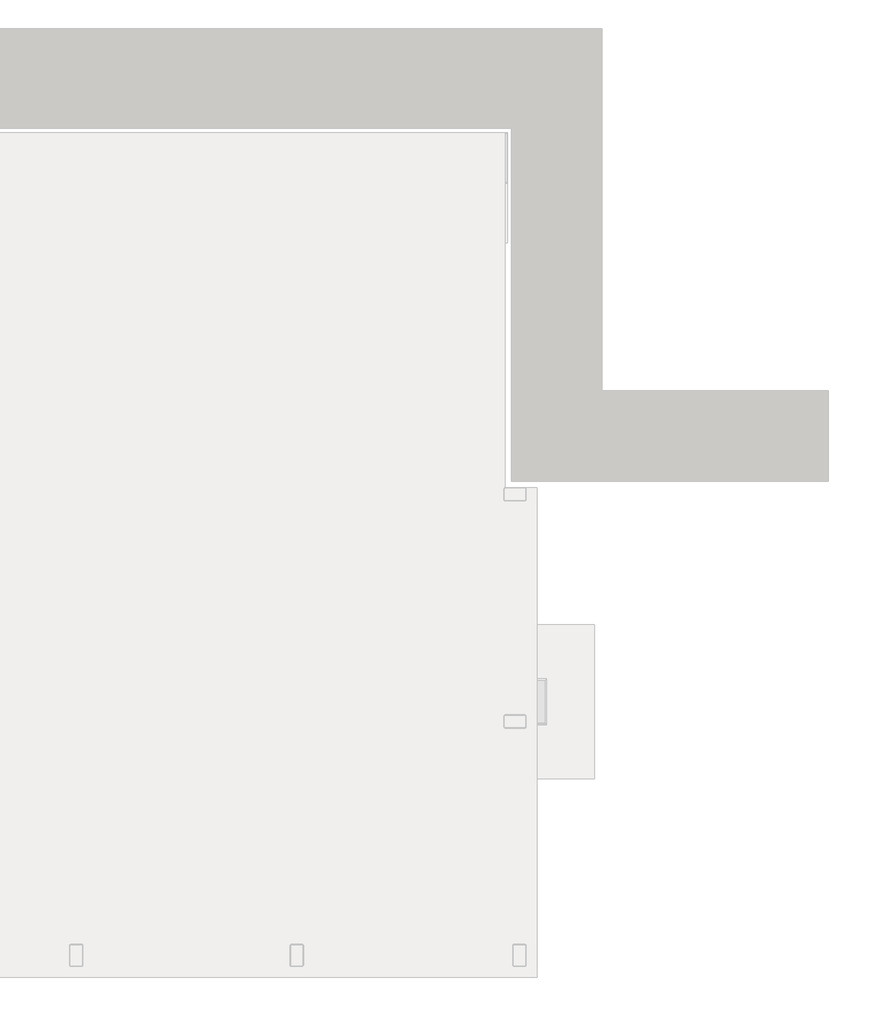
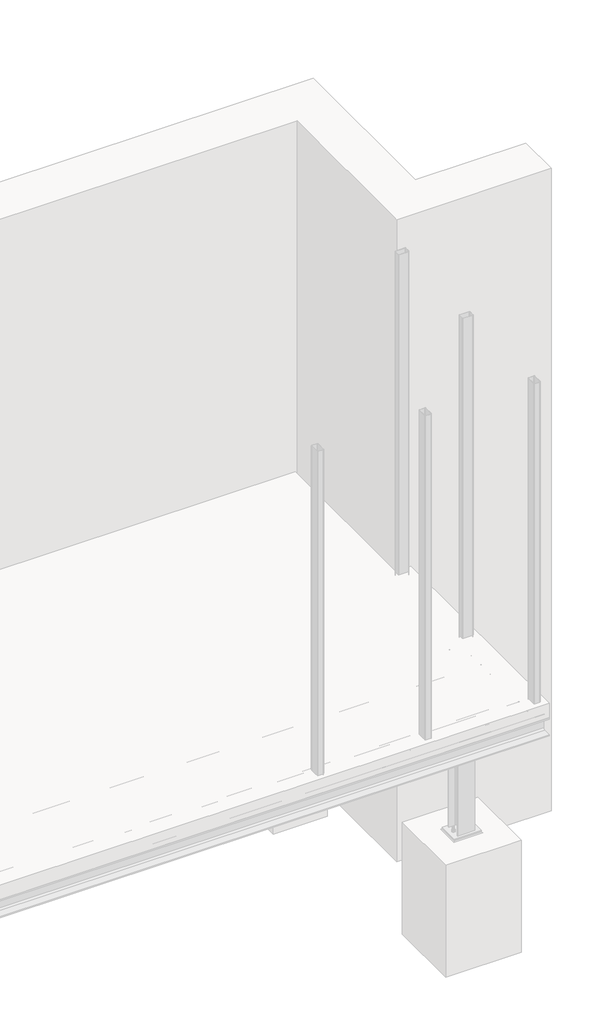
# One storey, part 36 of 36: 3 assemblies.
"""IFC4 building model written with IfcOpenShell, lengths in millimetres."""

import ifcopenshell
import ifcopenshell.guid

model = None  # the IFC model being written
_history = None  # IfcOwnerHistory: only IFC2X3 demands one
_inside = {}  # id of a spatial element -> (the spatial element, [elements in it])
_under = {}  # id of a project, library or spatial element -> (it, [spatial elements below it])
_declared = {}  # id of a project -> (the project, [libraries it declares])
_typed = {}  # id of a type object -> (the type object, [elements of that type])
_made_of = {}  # id of a material, layer set ... -> (it, [elements and type objects made of it])


def new_model(schema):
    """Start an empty IFC model of exactly this schema.

    Asked for "IFC4X3", IfcOpenShell would pick the latest addendum, in which some entities
    have other attributes; the version numbers below select the first issue.
    IFC2X3 requires an IfcOwnerHistory on every rooted entity: one is made here for all.
    """
    global model, _history
    if schema == "IFC4X3":
        model = ifcopenshell.file(schema_version=(4, 3, 0, 0))
    else:
        model = ifcopenshell.file(schema=schema)
    _inside.clear()
    _under.clear()
    _declared.clear()
    _typed.clear()
    _made_of.clear()
    _history = None
    if model.schema == "IFC2X3":
        org = make("IfcOrganization", Name="unknown")
        user = make(
            "IfcPersonAndOrganization",
            ThePerson=make("IfcPerson", FamilyName="unknown"),
            TheOrganization=org,
        )
        app = make(
            "IfcApplication",
            ApplicationDeveloper=org,
            Version="unknown",
            ApplicationFullName="unknown",
            ApplicationIdentifier="unknown",
        )
        _history = make(
            "IfcOwnerHistory",
            OwningUser=user,
            OwningApplication=app,
            ChangeAction="ADDED",
            CreationDate=0,
        )
    return model


def make(cls, **values):
    """One entity of the class cls with the attributes given. An attribute that is None is left unset."""
    return model.create_entity(
        cls, **{name: value for name, value in values.items() if value is not None}
    )


def rooted(cls, **values):
    """An entity with a GlobalId (a new one), such as an element, a storey or a relation."""
    return make(cls, GlobalId=ifcopenshell.guid.new(), OwnerHistory=_history, **values)


def si_unit(unit_type, name, prefix=None):
    """IfcSIUnit, for example si_unit("LENGTHUNIT", "METRE", prefix="MILLI")."""
    return make("IfcSIUnit", UnitType=unit_type, Prefix=prefix, Name=name)


def assignment(units):
    """IfcUnitAssignment: the units of a project."""
    return None if units is None else make("IfcUnitAssignment", Units=units)


def point(xyz):
    """IfcCartesianPoint."""
    return None if xyz is None else make("IfcCartesianPoint", Coordinates=xyz)


def direction(xyz):
    """IfcDirection."""
    return None if xyz is None else make("IfcDirection", DirectionRatios=xyz)


def frame(location, z_axis=None, x_axis=None):
    """IfcAxis2Placement3D, a coordinate frame: its origin and axes. An axis left out is left unset."""
    return make(
        "IfcAxis2Placement3D",
        Location=point(location),
        Axis=direction(z_axis),
        RefDirection=direction(x_axis),
    )


def frame_2d(location, x_axis=None):
    """IfcAxis2Placement2D, a coordinate frame in the plane: its origin and x axis."""
    return make(
        "IfcAxis2Placement2D", Location=point(location), RefDirection=direction(x_axis)
    )


def origin():
    """The frame at (0, 0, 0) with its axes left unset."""
    return frame((0.0, 0.0, 0.0))


def place(relative_to, where):
    """IfcLocalPlacement: puts the frame where relative to a parent placement (None: the world)."""
    return make(
        "IfcLocalPlacement", PlacementRelTo=relative_to, RelativePlacement=where
    )


def context(
    kind, dimensions, precision=None, world=None, true_north=None, identifier=None
):
    """IfcGeometricRepresentationContext, for example the 3D "Model" context."""
    return make(
        "IfcGeometricRepresentationContext",
        ContextIdentifier=identifier,
        ContextType=kind,
        CoordinateSpaceDimension=dimensions,
        Precision=precision,
        WorldCoordinateSystem=world,
        TrueNorth=true_north,
    )


def project(units=None, contexts=None):
    """IfcProject with its units and contexts."""
    return rooted(
        "IfcProject",
        Name="project",
        RepresentationContexts=contexts,
        UnitsInContext=assignment(units),
    )


def spatial(cls, under=None, at=None, **own):
    """A site, building, storey or space (cls), placed at a placement, below another one or the project."""
    s = rooted(cls, ObjectPlacement=at, **own)
    if under is not None:
        _under.setdefault(under.id(), (under, []))[1].append(s)
    return s


def polyline(points):
    """IfcPolyline through the points."""
    return make("IfcPolyline", Points=[point(p) for p in points])


def circle_curve(where, radius):
    """IfcCircle in the frame where."""
    return make("IfcCircle", Position=where, Radius=radius)


def ellipse_curve(where, semi_axis1, semi_axis2):
    """IfcEllipse in the frame where."""
    return make(
        "IfcEllipse", Position=where, SemiAxis1=semi_axis1, SemiAxis2=semi_axis2
    )


def trimmed(basis, trim1, trim2, sense, master):
    """IfcTrimmedCurve: the piece of a basis curve between two trims."""
    return make(
        "IfcTrimmedCurve",
        BasisCurve=basis,
        Trim1=trim1,
        Trim2=trim2,
        SenseAgreement=sense,
        MasterRepresentation=master,
    )


def segment(curve, same_sense, transition):
    """IfcCompositeCurveSegment."""
    return make(
        "IfcCompositeCurveSegment",
        Transition=transition,
        SameSense=same_sense,
        ParentCurve=curve,
    )


def composite_curve(segments, self_intersect=None):
    """IfcCompositeCurve: segments joined end to end."""
    return make("IfcCompositeCurve", Segments=segments, SelfIntersect=self_intersect)


def outline(outer, holes=None, kind="AREA"):
    """IfcArbitraryClosedProfileDef: a profile drawn as a closed curve; with holes, ...WithVoids."""
    if holes is None:
        return make("IfcArbitraryClosedProfileDef", ProfileType=kind, OuterCurve=outer)
    return make(
        "IfcArbitraryProfileDefWithVoids",
        ProfileType=kind,
        OuterCurve=outer,
        InnerCurves=holes,
    )


def extrude(swept, where, along, depth):
    """IfcExtrudedAreaSolid: the profile swept, set in the frame where, extruded along a direction by depth."""
    return make(
        "IfcExtrudedAreaSolid",
        SweptArea=swept,
        Position=where,
        ExtrudedDirection=direction(along),
        Depth=depth,
    )


def faces_of(points, faces, orient=None, outer=None):
    """IfcFace entities. A face is a list of loops; a loop is a list of indices into points, from 0.

    orient and outer hold one flag for each loop. By default every Orientation is true, the
    first loop of a face is its IfcFaceOuterBound and the others are IfcFaceBound.
    """
    made = []
    for i, loops in enumerate(faces):
        bounds = []
        for j, loop in enumerate(loops):
            is_outer = j == 0 if outer is None else outer[i][j]
            bounds.append(
                make(
                    "IfcFaceOuterBound" if is_outer else "IfcFaceBound",
                    Bound=make("IfcPolyLoop", Polygon=[points[k] for k in loop]),
                    Orientation=True if orient is None else orient[i][j],
                )
            )
        made.append(make("IfcFace", Bounds=bounds))
    return made


def faceted_brep(points, faces, orient=None, outer=None, voids=None):
    """IfcFacetedBrep: a solid bounded by flat faces; with voids (closed shells), ...WithVoids."""
    shared = [point(p) for p in points]
    hull = make("IfcClosedShell", CfsFaces=faces_of(shared, faces, orient, outer))
    if voids is None:
        return make("IfcFacetedBrep", Outer=hull)
    return make(
        "IfcFacetedBrepWithVoids",
        Outer=hull,
        Voids=[
            make(cls, CfsFaces=faces_of(shared, fs, o, b)) for cls, fs, o, b in voids
        ],
    )


def shape(context_of_items, identifier, shape_type, items):
    """IfcShapeRepresentation: the items that make up one representation, for example the "Body"."""
    return make(
        "IfcShapeRepresentation",
        ContextOfItems=context_of_items,
        RepresentationIdentifier=identifier,
        RepresentationType=shape_type,
        Items=items,
    )


def made_of(thing, what):
    """Note that an element or type object is made of a material, layer set ...; save() writes the relation."""
    if what is not None:
        _made_of.setdefault(what.id(), (what, []))[1].append(thing)
    return thing


def element(
    cls,
    number,
    at=None,
    inside=None,
    cuts=None,
    type_object=None,
    material=None,
    context=None,
    identifier="Body",
    shape_type=None,
    held_by="IfcProductDefinitionShape",
    body=None,
    shapes=None,
    **own,
):
    """One element of the class cls, such as IfcWall. Its Tag is "e" and its number.

    at: its placement. inside: the storey or other place that contains it. cuts: it is an
    opening in that element (IfcRelVoidsElement). A single representation is given by context,
    identifier, shape_type and body (its items); several are given by shapes. held_by: the class
    of the entity that holds the representations. save() writes the other relations.
    """
    e = rooted(cls, Tag="e%d" % number, ObjectPlacement=at, **own)
    if body is not None:
        shapes = [shape(context, identifier, shape_type, body)]
    if shapes is not None:
        e.Representation = make(held_by, Representations=shapes)
    if inside is not None:
        _inside.setdefault(inside.id(), (inside, []))[1].append(e)
    if cuts is not None:
        rooted(
            "IfcRelVoidsElement", RelatingBuildingElement=cuts, RelatedOpeningElement=e
        )
    if type_object is not None:
        _typed.setdefault(type_object.id(), (type_object, []))[1].append(e)
    return made_of(e, material)


def aggregate(whole, parts):
    """IfcRelAggregates: a whole, such as a stair, and the parts it consists of."""
    return rooted("IfcRelAggregates", RelatingObject=whole, RelatedObjects=parts)


def save(model, path):
    """Write the relations noted so far, then the file.

    IfcRelAggregates (storeys below a building ...), IfcRelContainedInSpatialStructure (elements
    in a storey), IfcRelDefinesByType, IfcRelAssociatesMaterial and IfcRelDeclares: one each for
    every whole, place, type object, material and project.
    """
    for whole, parts in _under.values():
        aggregate(whole, parts)
    for where, things in _inside.values():
        rooted(
            "IfcRelContainedInSpatialStructure",
            RelatedElements=things,
            RelatingStructure=where,
        )
    for kind, things in _typed.values():
        rooted("IfcRelDefinesByType", RelatedObjects=things, RelatingType=kind)
    for what, things in _made_of.values():
        rooted("IfcRelAssociatesMaterial", RelatedObjects=things, RelatingMaterial=what)
    for by, libraries in _declared.values():
        rooted("IfcRelDeclares", RelatingContext=by, RelatedDefinitions=libraries)
    model.write(path)


def plane_surface(at):
    """IfcPlane: the flat surface through the origin of the frame at, square to its z axis."""
    return make("IfcPlane", Position=at)


def revolved_surface(curve, axis_point, axis_direction):
    """IfcSurfaceOfRevolution: the curve turned about the line through axis_point along axis_direction."""
    return make(
        "IfcSurfaceOfRevolution",
        SweptCurve=make("IfcArbitraryOpenProfileDef", ProfileType="CURVE", Curve=curve),
        AxisPosition=make("IfcAxis1Placement", Location=point(axis_point), Axis=direction(axis_direction)),
    )


def advanced_brep(points, edges, surfaces, faces):
    """IfcAdvancedBrep: a solid bounded by faces that lie on surfaces and meet in shared edges.

    An edge is (start, end): straight between two places in points (the first is 0);
    or (start, end, curve); or (start, end, curve, False) where it runs against its curve.
    A face is (place in surfaces, loops), or (place, loops, False) where it looks against
    its surface's normal. A loop lists edges by number (the first is 1), with a minus sign
    where the edge is run from its end to its start. The first loop is the outer one.
    """
    corners = [point(p) for p in points]
    vertices = [make("IfcVertexPoint", VertexGeometry=c) for c in corners]
    made = []
    for start, end, *more in edges:
        made.append(
            make(
                "IfcEdgeCurve",
                EdgeStart=vertices[start],
                EdgeEnd=vertices[end],
                EdgeGeometry=more[0] if more else make("IfcPolyline", Points=[corners[start], corners[end]]),
                SameSense=more[1] if len(more) > 1 else True,
            )
        )
    hull = []
    for where, loops, *sense in faces:
        bounds = []
        for j, loop in enumerate(loops):
            ring = [make("IfcOrientedEdge", EdgeElement=made[abs(k) - 1], Orientation=k > 0) for k in loop]
            bounds.append(
                make(
                    "IfcFaceOuterBound" if j == 0 else "IfcFaceBound",
                    Bound=make("IfcEdgeLoop", EdgeList=ring),
                    Orientation=True,
                )
            )
        hull.append(make("IfcAdvancedFace", Bounds=bounds, FaceSurface=surfaces[where], SameSense=sense[0] if sense else True))
    return make("IfcAdvancedBrep", Outer=make("IfcClosedShell", CfsFaces=hull))


model = new_model("IFC4")

# Units and contexts
model_context = context("Model", 3, world=origin())
ifc_project = project(units=[si_unit("LENGTHUNIT", "METRE", prefix="MILLI")], contexts=[model_context])

# Site, building, storey
site = spatial("IfcSite", under=ifc_project)
building = spatial("IfcBuilding", under=site)
storey = spatial("IfcBuildingStorey", under=building, Name="Základy", Elevation=-1200.0)

# Assemblies
placement = place(None, origin())
element("IfcElementAssembly", 1, at=placement, inside=storey, context=model_context, shape_type="SolidModel", body=[
    advanced_brep(
    [(16140.0, 210.0, -160.0), (15960.0, 210.0, -160.0), (15960.0, 210.0, -174.0), (16030.75, 210.0, -174.0), (16045.75, 210.0, -189.0), (16045.75, 210.0, -311.0), (16030.75, 210.0, -326.0), (15960.0, 210.0, -326.0), (15960.0, 210.0, -340.0), (16140.0, 210.0, -340.0), (16140.0, 210.0, -326.0), (16069.25, 210.0, -326.0), (16054.25, 210.0, -311.0), (16054.25, 210.0, -189.0), (16069.25, 210.0, -174.0), (16140.0, 210.0, -174.0), (16140.0, 2230.0, -160.0), (15960.0, 2050.0, -160.0), (15960.0, 2050.0, -174.0), (16030.75, 2120.75, -174.0), (16045.75, 2135.75, -189.0), (16045.75, 2135.75, -311.0), (16030.75, 2120.75, -326.0), (15960.0, 2050.0, -326.0), (15960.0, 2050.0, -340.0), (16140.0, 2230.0, -340.0), (16140.0, 2230.0, -326.0), (16069.25, 2159.25, -326.0), (16054.25, 2144.25, -311.0), (16054.25, 2144.25, -189.0), (16069.25, 2159.25, -174.0), (16140.0, 2230.0, -174.0)],
    [
        (0, 1),
        (1, 2),
        (2, 3),
        (3, 4, circle_curve(frame((16030.75, 210.0, -189.0), z_axis=(0.0, 1.0, 0.0), x_axis=(-1.0, 0.0, 0.0)), 15.0)),
        (4, 5),
        (5, 6, circle_curve(frame((16030.75, 210.0, -311.0), z_axis=(0.0, 1.0, 0.0), x_axis=(-1.0, 0.0, 0.0)), 15.0)),
        (6, 7),
        (7, 8),
        (8, 9),
        (9, 10),
        (10, 11),
        (11, 12, circle_curve(frame((16069.25, 210.0, -311.0), z_axis=(0.0, 1.0, 0.0), x_axis=(-1.0, 0.0, 0.0)), 15.0)),
        (12, 13),
        (13, 14, circle_curve(frame((16069.25, 210.0, -189.0), z_axis=(0.0, 1.0, 0.0), x_axis=(-1.0, 0.0, 0.0)), 15.0)),
        (14, 15),
        (15, 0),
        (0, 16),
        (16, 17),
        (17, 1),
        (17, 18),
        (18, 2),
        (18, 19),
        (19, 3),
        (19, 20, ellipse_curve(frame((16030.75, 2120.75, -189.0), z_axis=(-0.7071067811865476, 0.7071067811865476, 0.0), x_axis=(0.7071067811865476, 0.7071067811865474, 0.0)), 21.2132034, 15.0)),
        (20, 4),
        (20, 21),
        (21, 5),
        (21, 22, ellipse_curve(frame((16030.75, 2120.75, -311.0), z_axis=(-0.7071067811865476, 0.7071067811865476, 0.0), x_axis=(0.7071067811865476, 0.7071067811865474, 0.0)), 21.2132034, 15.0)),
        (22, 6),
        (22, 23),
        (23, 7),
        (23, 24),
        (24, 8),
        (24, 25),
        (25, 9),
        (25, 26),
        (26, 10),
        (26, 27),
        (27, 11),
        (27, 28, ellipse_curve(frame((16069.25, 2159.25, -311.0), z_axis=(-0.7071067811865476, 0.7071067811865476, 0.0), x_axis=(0.7071067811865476, 0.7071067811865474, 0.0)), 21.2132034, 15.0)),
        (28, 12),
        (28, 29),
        (29, 13),
        (29, 30, ellipse_curve(frame((16069.25, 2159.25, -189.0), z_axis=(-0.7071067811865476, 0.7071067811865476, 0.0), x_axis=(0.7071067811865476, 0.7071067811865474, 0.0)), 21.2132034, 15.0)),
        (30, 14),
        (30, 31),
        (31, 15),
        (31, 16),
    ],
    [
        plane_surface(frame((16050.0, 210.0, -250.0), z_axis=(0.0, -1.0, 0.0), x_axis=(0.0, 0.0, -1.0))),
        plane_surface(frame((16140.0, 210.0, -160.0), z_axis=(0.0, 0.0, 1.0), x_axis=(0.0, 1.0, 0.0))),
        plane_surface(frame((15960.0, 210.0, -160.0), z_axis=(-1.0, 0.0, 0.0), x_axis=(0.0, 1.0, 0.0))),
        plane_surface(frame((15960.0, 210.0, -174.0), z_axis=(0.0, 0.0, -1.0), x_axis=(0.0, 1.0, 0.0))),
        revolved_surface(polyline([(16015.75, 2135.75, -189.0), (16015.75, 210.0, -189.0)]), (16030.75, 2240.0, -189.0), (0.0, 1.0, 0.0)),
        plane_surface(frame((16045.75, 210.0, -189.0), z_axis=(-1.0, 0.0, 0.0), x_axis=(0.0, 1.0, 0.0))),
        revolved_surface(polyline([(16015.75, 2135.75, -311.0), (16015.75, 210.0, -311.0)]), (16030.75, 2240.0, -311.0), (0.0, 1.0, 0.0)),
        plane_surface(frame((16030.75, 210.0, -326.0), z_axis=(0.0, 0.0, 1.0), x_axis=(0.0, 1.0, 0.0))),
        plane_surface(frame((15960.0, 210.0, -326.0), z_axis=(-1.0, 0.0, 0.0), x_axis=(0.0, 1.0, 0.0))),
        plane_surface(frame((15960.0, 210.0, -340.0), z_axis=(0.0, 0.0, -1.0), x_axis=(0.0, 1.0, 0.0))),
        plane_surface(frame((16140.0, 210.0, -340.0), z_axis=(1.0, 0.0, 0.0), x_axis=(0.0, 1.0, 0.0))),
        plane_surface(frame((16140.0, 210.0, -326.0), z_axis=(0.0, 0.0, 1.0), x_axis=(0.0, 1.0, 0.0))),
        revolved_surface(polyline([(16054.25, 2174.2499999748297, -311.0), (16054.25, 210.0, -311.0)]), (16069.25, 2240.0, -311.0), (0.0, 1.0, 0.0)),
        plane_surface(frame((16054.25, 210.0, -311.0), z_axis=(1.0, 0.0, 0.0), x_axis=(0.0, 1.0, 0.0))),
        revolved_surface(polyline([(16054.25, 2174.2499999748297, -189.0), (16054.25, 210.0, -189.0)]), (16069.25, 2240.0, -189.0), (0.0, 1.0, 0.0)),
        plane_surface(frame((16069.25, 210.0, -174.0), z_axis=(0.0, 0.0, -1.0), x_axis=(0.0, 1.0, 0.0))),
        plane_surface(frame((16140.0, 210.0, -174.0), z_axis=(1.0, 0.0, 0.0), x_axis=(0.0, 1.0, 0.0))),
        plane_surface(frame((16150.0, 2240.0, -360.0), z_axis=(-0.7071067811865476, 0.7071067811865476, 0.0), x_axis=(0.7071067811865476, 0.7071067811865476, 0.0))),
    ],
    [
        (0, [[1, 2, 3, 4, 5, 6, 7, 8, 9, 10, 11, 12, 13, 14, 15, 16]]),
        (1, [[-1, 17, 18, 19]]),
        (2, [[-2, -19, 20, 21]]),
        (3, [[-3, -21, 22, 23]]),
        (4, [[-4, -23, 24, 25]]),
        (5, [[-5, -25, 26, 27]]),
        (6, [[-6, -27, 28, 29]]),
        (7, [[-7, -29, 30, 31]]),
        (8, [[-8, -31, 32, 33]]),
        (9, [[-9, -33, 34, 35]]),
        (10, [[-10, -35, 36, 37]]),
        (11, [[-11, -37, 38, 39]]),
        (12, [[-12, -39, 40, 41]]),
        (13, [[-13, -41, 42, 43]]),
        (14, [[-14, -43, 44, 45]]),
        (15, [[-15, -45, 46, 47]]),
        (16, [[-16, -47, 48, -17]]),
        (17, [[-18, -48, -46, -44, -42, -40, -38, -36, -34, -32, -30, -28, -26, -24, -22, -20]]),
    ],
),
    extrude(outline(polyline([(15950.0, 1170.0), (15950.0, 1350.0), (15960.0, 1350.0), (15960.0, 1170.0), (15950.0, 1170.0)])), frame((0.0, 0.0, -332.0), z_axis=(0.0, 0.0, 1.0), x_axis=(1.0, 0.0, 0.0)), (0.0, 0.0, 1.0), 164.0),
    extrude(outline(composite_curve([segment(polyline([(-174.0, 15960.0), (-326.0, 15960.0), (-326.0, 16020.5)]), True, "CONTINUOUS"), segment(trimmed(circle_curve(frame_2d((-326.0, 16045.5)), 25.0), [point((-326.0, 16020.5))], [point((-301.0, 16045.5))], True, "CARTESIAN"), True, "CONTINUOUS"), segment(polyline([(-301.0, 16045.5), (-199.0, 16045.5)]), True, "CONTINUOUS"), segment(trimmed(circle_curve(frame_2d((-174.0, 16045.5)), 25.0), [point((-199.0, 16045.5))], [point((-174.0, 16020.5))], True, "CARTESIAN"), True, "CONTINUOUS"), segment(polyline([(-174.0, 16020.5), (-174.0, 15960.0)]), True, "CONTINUOUS")], self_intersect=False)), frame((0.0, 1256.0, 0.0), z_axis=(0.0, 1.0, 0.0), x_axis=(0.0, 0.0, 1.0)), (0.0, 0.0, 1.0), 8.0),
    extrude(outline(polyline([(15960.0, 210.0), (16140.0, 210.0), (16140.0, 200.0), (15960.0, 200.0), (15960.0, 210.0)])), frame((0.0, 0.0, -332.0), z_axis=(0.0, 0.0, 1.0), x_axis=(1.0, 0.0, 0.0)), (0.0, 0.0, 1.0), 164.0),
    extrude(outline(composite_curve([segment(trimmed(circle_curve(frame_2d((1215.0, -210.0)), 8.5), [point((1215.0, -218.5))], [point((1215.0, -201.5))], False, "CARTESIAN"), True, "CONTINUOUS"), segment(trimmed(circle_curve(frame_2d((1215.0, -210.0)), 8.5), [point((1215.0, -201.5))], [point((1215.0, -218.5))], False, "CARTESIAN"), True, "CONTINUOUS")], self_intersect=False)), frame((15949.9, 0.0, 0.0), z_axis=(1.0, 0.0, 0.0), x_axis=(0.0, 1.0, 0.0)), (0.0, 0.0, 1.0), 10.0),
    extrude(outline(polyline([(1215.0, -223.8564065), (1203.0, -216.9282032), (1203.0, -203.0717968), (1215.0, -196.1435935), (1227.0, -203.0717968), (1227.0, -216.9282032), (1215.0, -223.8564065)])), frame((15963.0, 0.0, 0.0), z_axis=(1.0, 0.0, 0.0), x_axis=(0.0, 1.0, 0.0)), (0.0, 0.0, 1.0), 10.0),
    extrude(outline(composite_curve([segment(trimmed(circle_curve(frame_2d((1215.0, -210.0)), 8.0), [point((1215.0, -218.0))], [point((1215.0, -202.0))], False, "CARTESIAN"), True, "CONTINUOUS"), segment(trimmed(circle_curve(frame_2d((1215.0, -210.0)), 8.0), [point((1215.0, -202.0))], [point((1215.0, -218.0))], False, "CARTESIAN"), True, "CONTINUOUS")], self_intersect=False)), frame((15918.0, 0.0, 0.0), z_axis=(1.0, 0.0, 0.0), x_axis=(0.0, 1.0, 0.0)), (0.0, 0.0, 1.0), 45.0),
    extrude(outline(composite_curve([segment(trimmed(circle_curve(frame_2d((1215.0, -210.0)), 15.0), [point((1215.0, -225.0))], [point((1215.0, -195.0))], False, "CARTESIAN"), True, "CONTINUOUS"), segment(trimmed(circle_curve(frame_2d((1215.0, -210.0)), 15.0), [point((1215.0, -195.0))], [point((1215.0, -225.0))], False, "CARTESIAN"), True, "CONTINUOUS")], self_intersect=False)), frame((15960.0, 0.0, 0.0), z_axis=(1.0, 0.0, 0.0), x_axis=(0.0, 1.0, 0.0)), (0.0, 0.0, 1.0), 3.0),
    extrude(outline(composite_curve([segment(trimmed(circle_curve(frame_2d((1215.0, -210.0)), 15.0), [point((1215.0, -225.0))], [point((1215.0, -195.0))], False, "CARTESIAN"), True, "CONTINUOUS"), segment(trimmed(circle_curve(frame_2d((1215.0, -210.0)), 15.0), [point((1215.0, -195.0))], [point((1215.0, -225.0))], False, "CARTESIAN"), True, "CONTINUOUS")], self_intersect=False)), frame((15937.0, 0.0, 0.0), z_axis=(1.0, 0.0, 0.0), x_axis=(0.0, 1.0, 0.0)), (0.0, 0.0, 1.0), 3.0),
    extrude(outline(polyline([(1215.0, -225.4441197), (1201.625, -217.7220599), (1201.625, -202.2779401), (1215.0, -194.5558803), (1228.375, -202.2779401), (1228.375, -217.7220599), (1215.0, -225.4441197)])), frame((15924.0, 0.0, 0.0), z_axis=(1.0, 0.0, 0.0), x_axis=(0.0, 1.0, 0.0)), (0.0, 0.0, 1.0), 13.0),
    extrude(outline(composite_curve([segment(trimmed(circle_curve(frame_2d((1215.0, -210.0)), 8.5), [point((1215.0, -218.5))], [point((1215.0, -201.5))], False, "CARTESIAN"), True, "CONTINUOUS"), segment(trimmed(circle_curve(frame_2d((1215.0, -210.0)), 8.5), [point((1215.0, -201.5))], [point((1215.0, -218.5))], False, "CARTESIAN"), True, "CONTINUOUS")], self_intersect=False)), frame((15940.0, 0.0, 0.0), z_axis=(1.0, 0.0, 0.0), x_axis=(0.0, 1.0, 0.0)), (0.0, 0.0, 1.0), 10.1),
    extrude(outline(composite_curve([segment(trimmed(circle_curve(frame_2d((1215.0, -290.0)), 8.5), [point((1215.0, -298.5))], [point((1215.0, -281.5))], False, "CARTESIAN"), True, "CONTINUOUS"), segment(trimmed(circle_curve(frame_2d((1215.0, -290.0)), 8.5), [point((1215.0, -281.5))], [point((1215.0, -298.5))], False, "CARTESIAN"), True, "CONTINUOUS")], self_intersect=False)), frame((15949.9, 0.0, 0.0), z_axis=(1.0, 0.0, 0.0), x_axis=(0.0, 1.0, 0.0)), (0.0, 0.0, 1.0), 10.0),
    extrude(outline(polyline([(1215.0, -303.8564065), (1203.0, -296.9282032), (1203.0, -283.0717968), (1215.0, -276.1435935), (1227.0, -283.0717968), (1227.0, -296.9282032), (1215.0, -303.8564065)])), frame((15963.0, 0.0, 0.0), z_axis=(1.0, 0.0, 0.0), x_axis=(0.0, 1.0, 0.0)), (0.0, 0.0, 1.0), 10.0),
    extrude(outline(composite_curve([segment(trimmed(circle_curve(frame_2d((1215.0, -290.0)), 8.0), [point((1215.0, -298.0))], [point((1215.0, -282.0))], False, "CARTESIAN"), True, "CONTINUOUS"), segment(trimmed(circle_curve(frame_2d((1215.0, -290.0)), 8.0), [point((1215.0, -282.0))], [point((1215.0, -298.0))], False, "CARTESIAN"), True, "CONTINUOUS")], self_intersect=False)), frame((15918.0, 0.0, 0.0), z_axis=(1.0, 0.0, 0.0), x_axis=(0.0, 1.0, 0.0)), (0.0, 0.0, 1.0), 45.0),
    extrude(outline(composite_curve([segment(trimmed(circle_curve(frame_2d((1215.0, -290.0)), 15.0), [point((1215.0, -305.0))], [point((1215.0, -275.0))], False, "CARTESIAN"), True, "CONTINUOUS"), segment(trimmed(circle_curve(frame_2d((1215.0, -290.0)), 15.0), [point((1215.0, -275.0))], [point((1215.0, -305.0))], False, "CARTESIAN"), True, "CONTINUOUS")], self_intersect=False)), frame((15960.0, 0.0, 0.0), z_axis=(1.0, 0.0, 0.0), x_axis=(0.0, 1.0, 0.0)), (0.0, 0.0, 1.0), 3.0),
    extrude(outline(composite_curve([segment(trimmed(circle_curve(frame_2d((1215.0, -290.0)), 15.0), [point((1215.0, -305.0))], [point((1215.0, -275.0))], False, "CARTESIAN"), True, "CONTINUOUS"), segment(trimmed(circle_curve(frame_2d((1215.0, -290.0)), 15.0), [point((1215.0, -275.0))], [point((1215.0, -305.0))], False, "CARTESIAN"), True, "CONTINUOUS")], self_intersect=False)), frame((15937.0, 0.0, 0.0), z_axis=(1.0, 0.0, 0.0), x_axis=(0.0, 1.0, 0.0)), (0.0, 0.0, 1.0), 3.0),
    extrude(outline(polyline([(1215.0, -305.4441197), (1201.625, -297.7220599), (1201.625, -282.2779401), (1215.0, -274.5558803), (1228.375, -282.2779401), (1228.375, -297.7220599), (1215.0, -305.4441197)])), frame((15924.0, 0.0, 0.0), z_axis=(1.0, 0.0, 0.0), x_axis=(0.0, 1.0, 0.0)), (0.0, 0.0, 1.0), 13.0),
    extrude(outline(composite_curve([segment(trimmed(circle_curve(frame_2d((1215.0, -290.0)), 8.5), [point((1215.0, -298.5))], [point((1215.0, -281.5))], False, "CARTESIAN"), True, "CONTINUOUS"), segment(trimmed(circle_curve(frame_2d((1215.0, -290.0)), 8.5), [point((1215.0, -281.5))], [point((1215.0, -298.5))], False, "CARTESIAN"), True, "CONTINUOUS")], self_intersect=False)), frame((15940.0, 0.0, 0.0), z_axis=(1.0, 0.0, 0.0), x_axis=(0.0, 1.0, 0.0)), (0.0, 0.0, 1.0), 10.1),
    extrude(outline(composite_curve([segment(trimmed(circle_curve(frame_2d((1305.0, -210.0)), 8.5), [point((1305.0, -218.5))], [point((1305.0, -201.5))], False, "CARTESIAN"), True, "CONTINUOUS"), segment(trimmed(circle_curve(frame_2d((1305.0, -210.0)), 8.5), [point((1305.0, -201.5))], [point((1305.0, -218.5))], False, "CARTESIAN"), True, "CONTINUOUS")], self_intersect=False)), frame((15949.9, 0.0, 0.0), z_axis=(1.0, 0.0, 0.0), x_axis=(0.0, 1.0, 0.0)), (0.0, 0.0, 1.0), 10.0),
    extrude(outline(polyline([(1305.0, -223.8564065), (1293.0, -216.9282032), (1293.0, -203.0717968), (1305.0, -196.1435935), (1317.0, -203.0717968), (1317.0, -216.9282032), (1305.0, -223.8564065)])), frame((15963.0, 0.0, 0.0), z_axis=(1.0, 0.0, 0.0), x_axis=(0.0, 1.0, 0.0)), (0.0, 0.0, 1.0), 10.0),
    extrude(outline(composite_curve([segment(trimmed(circle_curve(frame_2d((1305.0, -210.0)), 8.0), [point((1305.0, -218.0))], [point((1305.0, -202.0))], False, "CARTESIAN"), True, "CONTINUOUS"), segment(trimmed(circle_curve(frame_2d((1305.0, -210.0)), 8.0), [point((1305.0, -202.0))], [point((1305.0, -218.0))], False, "CARTESIAN"), True, "CONTINUOUS")], self_intersect=False)), frame((15918.0, 0.0, 0.0), z_axis=(1.0, 0.0, 0.0), x_axis=(0.0, 1.0, 0.0)), (0.0, 0.0, 1.0), 45.0),
    extrude(outline(composite_curve([segment(trimmed(circle_curve(frame_2d((1305.0, -210.0)), 15.0), [point((1305.0, -225.0))], [point((1305.0, -195.0))], False, "CARTESIAN"), True, "CONTINUOUS"), segment(trimmed(circle_curve(frame_2d((1305.0, -210.0)), 15.0), [point((1305.0, -195.0))], [point((1305.0, -225.0))], False, "CARTESIAN"), True, "CONTINUOUS")], self_intersect=False)), frame((15960.0, 0.0, 0.0), z_axis=(1.0, 0.0, 0.0), x_axis=(0.0, 1.0, 0.0)), (0.0, 0.0, 1.0), 3.0),
    extrude(outline(composite_curve([segment(trimmed(circle_curve(frame_2d((1305.0, -210.0)), 15.0), [point((1305.0, -225.0))], [point((1305.0, -195.0))], False, "CARTESIAN"), True, "CONTINUOUS"), segment(trimmed(circle_curve(frame_2d((1305.0, -210.0)), 15.0), [point((1305.0, -195.0))], [point((1305.0, -225.0))], False, "CARTESIAN"), True, "CONTINUOUS")], self_intersect=False)), frame((15937.0, 0.0, 0.0), z_axis=(1.0, 0.0, 0.0), x_axis=(0.0, 1.0, 0.0)), (0.0, 0.0, 1.0), 3.0),
    extrude(outline(polyline([(1305.0, -225.4441197), (1291.625, -217.7220599), (1291.625, -202.2779401), (1305.0, -194.5558803), (1318.375, -202.2779401), (1318.375, -217.7220599), (1305.0, -225.4441197)])), frame((15924.0, 0.0, 0.0), z_axis=(1.0, 0.0, 0.0), x_axis=(0.0, 1.0, 0.0)), (0.0, 0.0, 1.0), 13.0),
    extrude(outline(composite_curve([segment(trimmed(circle_curve(frame_2d((1305.0, -210.0)), 8.5), [point((1305.0, -218.5))], [point((1305.0, -201.5))], False, "CARTESIAN"), True, "CONTINUOUS"), segment(trimmed(circle_curve(frame_2d((1305.0, -210.0)), 8.5), [point((1305.0, -201.5))], [point((1305.0, -218.5))], False, "CARTESIAN"), True, "CONTINUOUS")], self_intersect=False)), frame((15940.0, 0.0, 0.0), z_axis=(1.0, 0.0, 0.0), x_axis=(0.0, 1.0, 0.0)), (0.0, 0.0, 1.0), 10.1),
    extrude(outline(composite_curve([segment(trimmed(circle_curve(frame_2d((1305.0, -290.0)), 8.5), [point((1305.0, -298.5))], [point((1305.0, -281.5))], False, "CARTESIAN"), True, "CONTINUOUS"), segment(trimmed(circle_curve(frame_2d((1305.0, -290.0)), 8.5), [point((1305.0, -281.5))], [point((1305.0, -298.5))], False, "CARTESIAN"), True, "CONTINUOUS")], self_intersect=False)), frame((15949.9, 0.0, 0.0), z_axis=(1.0, 0.0, 0.0), x_axis=(0.0, 1.0, 0.0)), (0.0, 0.0, 1.0), 10.0),
    extrude(outline(polyline([(1305.0, -303.8564065), (1293.0, -296.9282032), (1293.0, -283.0717968), (1305.0, -276.1435935), (1317.0, -283.0717968), (1317.0, -296.9282032), (1305.0, -303.8564065)])), frame((15963.0, 0.0, 0.0), z_axis=(1.0, 0.0, 0.0), x_axis=(0.0, 1.0, 0.0)), (0.0, 0.0, 1.0), 10.0),
    extrude(outline(composite_curve([segment(trimmed(circle_curve(frame_2d((1305.0, -290.0)), 8.0), [point((1305.0, -298.0))], [point((1305.0, -282.0))], False, "CARTESIAN"), True, "CONTINUOUS"), segment(trimmed(circle_curve(frame_2d((1305.0, -290.0)), 8.0), [point((1305.0, -282.0))], [point((1305.0, -298.0))], False, "CARTESIAN"), True, "CONTINUOUS")], self_intersect=False)), frame((15918.0, 0.0, 0.0), z_axis=(1.0, 0.0, 0.0), x_axis=(0.0, 1.0, 0.0)), (0.0, 0.0, 1.0), 45.0),
    extrude(outline(composite_curve([segment(trimmed(circle_curve(frame_2d((1305.0, -290.0)), 15.0), [point((1305.0, -305.0))], [point((1305.0, -275.0))], False, "CARTESIAN"), True, "CONTINUOUS"), segment(trimmed(circle_curve(frame_2d((1305.0, -290.0)), 15.0), [point((1305.0, -275.0))], [point((1305.0, -305.0))], False, "CARTESIAN"), True, "CONTINUOUS")], self_intersect=False)), frame((15960.0, 0.0, 0.0), z_axis=(1.0, 0.0, 0.0), x_axis=(0.0, 1.0, 0.0)), (0.0, 0.0, 1.0), 3.0),
    extrude(outline(composite_curve([segment(trimmed(circle_curve(frame_2d((1305.0, -290.0)), 15.0), [point((1305.0, -305.0))], [point((1305.0, -275.0))], False, "CARTESIAN"), True, "CONTINUOUS"), segment(trimmed(circle_curve(frame_2d((1305.0, -290.0)), 15.0), [point((1305.0, -275.0))], [point((1305.0, -305.0))], False, "CARTESIAN"), True, "CONTINUOUS")], self_intersect=False)), frame((15937.0, 0.0, 0.0), z_axis=(1.0, 0.0, 0.0), x_axis=(0.0, 1.0, 0.0)), (0.0, 0.0, 1.0), 3.0),
    extrude(outline(polyline([(1305.0, -305.4441197), (1291.625, -297.7220599), (1291.625, -282.2779401), (1305.0, -274.5558803), (1318.375, -282.2779401), (1318.375, -297.7220599), (1305.0, -305.4441197)])), frame((15924.0, 0.0, 0.0), z_axis=(1.0, 0.0, 0.0), x_axis=(0.0, 1.0, 0.0)), (0.0, 0.0, 1.0), 13.0),
    extrude(outline(composite_curve([segment(trimmed(circle_curve(frame_2d((1305.0, -290.0)), 8.5), [point((1305.0, -298.5))], [point((1305.0, -281.5))], False, "CARTESIAN"), True, "CONTINUOUS"), segment(trimmed(circle_curve(frame_2d((1305.0, -290.0)), 8.5), [point((1305.0, -281.5))], [point((1305.0, -298.5))], False, "CARTESIAN"), True, "CONTINUOUS")], self_intersect=False)), frame((15940.0, 0.0, 0.0), z_axis=(1.0, 0.0, 0.0), x_axis=(0.0, 1.0, 0.0)), (0.0, 0.0, 1.0), 10.1),
])
element("IfcElementAssembly", 2, at=placement, inside=storey, context=model_context, shape_type="Brep", body=[
    faceted_brep([(15925.0, 1356.0, -1990.0), (15925.0, 1164.0, -1990.0), (16175.0, 1164.0, -1990.0), (16175.0, 1356.0, -1990.0), (16185.0, 1154.0, -2000.0), (15915.0, 1154.0, -2000.0), (15915.0, 1366.0, -2000.0), (16185.0, 1366.0, -2000.0)], [[[0, 1, 2, 3]], [[4, 5, 6, 7]], [[5, 4, 2, 1]], [[1, 0, 6, 5]], [[7, 6, 0, 3]], [[3, 2, 4, 7]]]),
])
element("IfcElementAssembly", 3, at=placement, inside=storey, context=model_context, shape_type="SweptSolid", body=[
    extrude(outline(composite_curve([segment(polyline([(16090.0, 2223.6), (16090.0, 2176.4)]), True, "CONTINUOUS"), segment(trimmed(circle_curve(frame_2d((16083.6, 2176.4)), 6.4), [point((16090.0, 2176.4))], [point((16083.6, 2170.0))], False, "CARTESIAN"), True, "CONTINUOUS"), segment(polyline([(16083.6, 2170.0), (15996.4, 2170.0)]), True, "CONTINUOUS"), segment(trimmed(circle_curve(frame_2d((15996.4, 2176.4)), 6.4), [point((15996.4, 2170.0))], [point((15990.0, 2176.4))], False, "CARTESIAN"), True, "CONTINUOUS"), segment(polyline([(15990.0, 2176.4), (15990.0, 2223.6)]), True, "CONTINUOUS"), segment(trimmed(circle_curve(frame_2d((15996.4, 2223.6)), 6.4), [point((15990.0, 2223.6))], [point((15996.4, 2230.0))], False, "CARTESIAN"), True, "CONTINUOUS"), segment(polyline([(15996.4, 2230.0), (16083.6, 2230.0)]), True, "CONTINUOUS"), segment(trimmed(circle_curve(frame_2d((16083.6, 2223.6)), 6.4), [point((16083.6, 2230.0))], [point((16090.0, 2223.6))], False, "CARTESIAN"), True, "CONTINUOUS")], self_intersect=False), holes=[composite_curve([segment(trimmed(circle_curve(frame_2d((16083.6, 2223.6)), 3.2), [point((16086.8, 2223.6))], [point((16083.6, 2226.8))], True, "CARTESIAN"), True, "CONTINUOUS"), segment(polyline([(16083.6, 2226.8), (15996.4, 2226.8)]), True, "CONTINUOUS"), segment(trimmed(circle_curve(frame_2d((15996.4, 2223.6)), 3.2), [point((15996.4, 2226.8))], [point((15993.2, 2223.6))], True, "CARTESIAN"), True, "CONTINUOUS"), segment(polyline([(15993.2, 2223.6), (15993.2, 2176.4)]), True, "CONTINUOUS"), segment(trimmed(circle_curve(frame_2d((15996.4, 2176.4)), 3.2), [point((15993.2, 2176.4))], [point((15996.4, 2173.2))], True, "CARTESIAN"), True, "CONTINUOUS"), segment(polyline([(15996.4, 2173.2), (16083.6, 2173.2)]), True, "CONTINUOUS"), segment(trimmed(circle_curve(frame_2d((16083.6, 2176.4)), 3.2), [point((16083.6, 2173.2))], [point((16086.8, 2176.4))], True, "CARTESIAN"), True, "CONTINUOUS"), segment(polyline([(16086.8, 2176.4), (16086.8, 2223.6)]), True, "CONTINUOUS")], self_intersect=False)]), frame((0.0, 0.0, -160.0), z_axis=(0.0, 0.0, 1.0), x_axis=(1.0, 0.0, 0.0)), (0.0, 0.0, 1.0), 3280.0),
])

save(model, "model.ifc")
